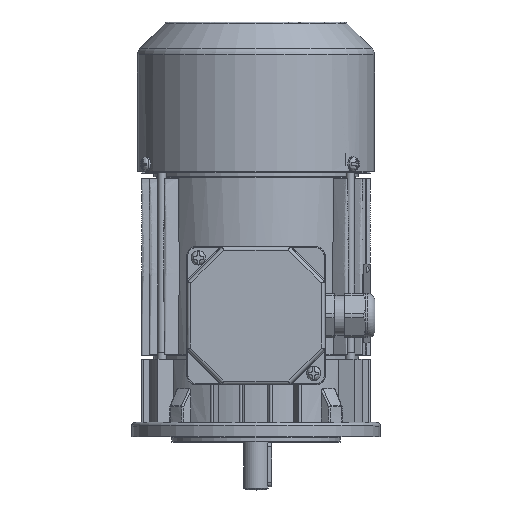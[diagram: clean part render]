
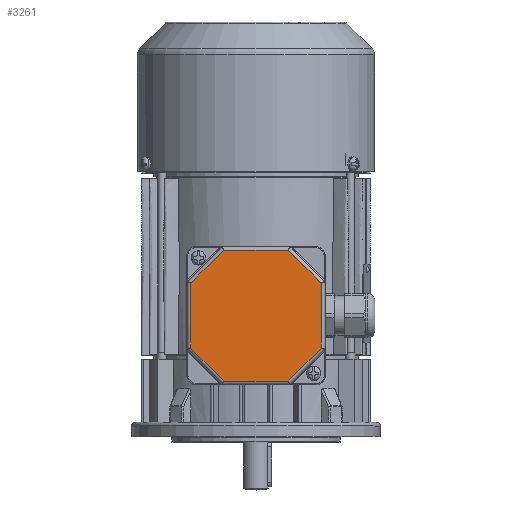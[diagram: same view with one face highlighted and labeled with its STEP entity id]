
A CAD part, top view. The second image highlights one B-rep face of the part: STEP entity #3261.
In plain terms, the highlighted planar face has unit normal (0, 0, 1).
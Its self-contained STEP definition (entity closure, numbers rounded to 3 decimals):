
#3261 = ADVANCED_FACE( '', ( #8249 ), #8250, .T. );
#8249 = FACE_OUTER_BOUND( '', #17362, .T. );
#8250 = PLANE( '', #17363 );
#17362 = EDGE_LOOP( '', ( #56355, #56356, #56357, #56358, #56359, #56360, #56361, #56362 ) );
#17363 = AXIS2_PLACEMENT_3D( '', #56363, #56364, #56365 );
#56355 = ORIENTED_EDGE( '', *, *, #76103, .T. );
#56356 = ORIENTED_EDGE( '', *, *, #76104, .T. );
#56357 = ORIENTED_EDGE( '', *, *, #76105, .T. );
#56358 = ORIENTED_EDGE( '', *, *, #76106, .T. );
#56359 = ORIENTED_EDGE( '', *, *, #76107, .T. );
#56360 = ORIENTED_EDGE( '', *, *, #75819, .T. );
#56361 = ORIENTED_EDGE( '', *, *, #76108, .T. );
#56362 = ORIENTED_EDGE( '', *, *, #76109, .T. );
#56363 = CARTESIAN_POINT( '', ( -39., 39., 12. ) );
#56364 = DIRECTION( '', ( 0., 0., 1. ) );
#56365 = DIRECTION( '', ( 1., 0., 0. ) );
#75819 = EDGE_CURVE( '', #84395, #84396, #84397, .T. );
#76103 = EDGE_CURVE( '', #84892, #84893, #84894, .F. );
#76104 = EDGE_CURVE( '', #84893, #84895, #84896, .T. );
#76105 = EDGE_CURVE( '', #84895, #84897, #84898, .F. );
#76106 = EDGE_CURVE( '', #84897, #84899, #84900, .T. );
#76107 = EDGE_CURVE( '', #84899, #84395, #84901, .F. );
#76108 = EDGE_CURVE( '', #84396, #84902, #84903, .F. );
#76109 = EDGE_CURVE( '', #84902, #84892, #84904, .T. );
#84395 = VERTEX_POINT( '', #98457 );
#84396 = VERTEX_POINT( '', #98458 );
#84397 = LINE( '', #98459, #98460 );
#84892 = VERTEX_POINT( '', #100310 );
#84893 = VERTEX_POINT( '', #100311 );
#84894 = LINE( '', #100312, #100313 );
#84895 = VERTEX_POINT( '', #100314 );
#84896 = LINE( '', #100315, #100316 );
#84897 = VERTEX_POINT( '', #100317 );
#84898 = LINE( '', #100318, #100319 );
#84899 = VERTEX_POINT( '', #100320 );
#84900 = LINE( '', #100321, #100322 );
#84901 = LINE( '', #100323, #100324 );
#84902 = VERTEX_POINT( '', #100325 );
#84903 = LINE( '', #100326, #100327 );
#84904 = LINE( '', #100328, #100329 );
#98457 = CARTESIAN_POINT( '', ( -36.825, -18.255, 12. ) );
#98458 = CARTESIAN_POINT( '', ( -18.255, -36.825, 12. ) );
#98459 = CARTESIAN_POINT( '', ( -17.679, -37.401, 12. ) );
#98460 = VECTOR( '', #138140, 1000. );
#100310 = CARTESIAN_POINT( '', ( 36.825, -18.255, 12. ) );
#100311 = CARTESIAN_POINT( '', ( 36.825, 18.255, 12. ) );
#100312 = CARTESIAN_POINT( '', ( 36.825, 19.069, 12. ) );
#100313 = VECTOR( '', #138452, 1000. );
#100314 = CARTESIAN_POINT( '', ( 18.255, 36.825, 12. ) );
#100315 = CARTESIAN_POINT( '', ( 17.679, 37.401, 12. ) );
#100316 = VECTOR( '', #138453, 1000. );
#100317 = CARTESIAN_POINT( '', ( -18.255, 36.825, 12. ) );
#100318 = CARTESIAN_POINT( '', ( -19.069, 36.825, 12. ) );
#100319 = VECTOR( '', #138454, 1000. );
#100320 = CARTESIAN_POINT( '', ( -36.825, 18.255, 12. ) );
#100321 = CARTESIAN_POINT( '', ( -37.401, 17.679, 12. ) );
#100322 = VECTOR( '', #138455, 1000. );
#100323 = CARTESIAN_POINT( '', ( -36.825, -19.069, 12. ) );
#100324 = VECTOR( '', #138456, 1000. );
#100325 = CARTESIAN_POINT( '', ( 18.255, -36.825, 12. ) );
#100326 = CARTESIAN_POINT( '', ( 19.069, -36.825, 12. ) );
#100327 = VECTOR( '', #138457, 1000. );
#100328 = CARTESIAN_POINT( '', ( 37.401, -17.679, 12. ) );
#100329 = VECTOR( '', #138458, 1000. );
#138140 = DIRECTION( '', ( 0.707, -0.707, 0. ) );
#138452 = DIRECTION( '', ( 0., -1., 0. ) );
#138453 = DIRECTION( '', ( -0.707, 0.707, 0. ) );
#138454 = DIRECTION( '', ( 1., 0., 0. ) );
#138455 = DIRECTION( '', ( -0.707, -0.707, 0. ) );
#138456 = DIRECTION( '', ( 0., 1., 0. ) );
#138457 = DIRECTION( '', ( -1., 0., 0. ) );
#138458 = DIRECTION( '', ( 0.707, 0.707, 0. ) );
